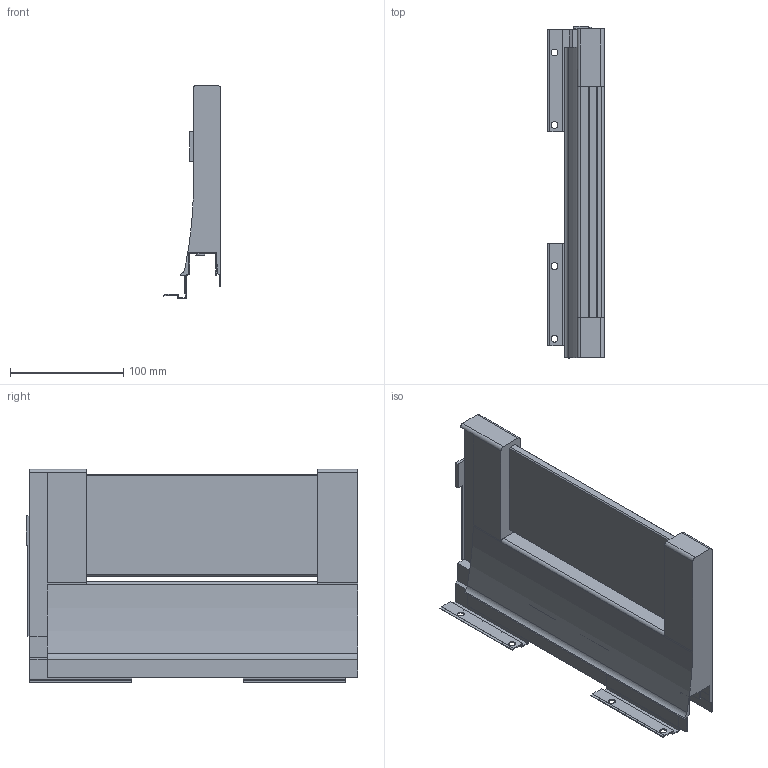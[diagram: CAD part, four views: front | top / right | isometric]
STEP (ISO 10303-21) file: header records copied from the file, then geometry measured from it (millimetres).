
FILE_DESCRIPTION (( 'STEP AP214' ), '1' );
FILE_NAME ('_XP Agantis Dekorseite H95 NL300 RE Top Glashalter.step', '2010-07-08T06:15:38', ( 'grass' ), ( '' ), 'SwSTEP 2.0', 'SolidWorks 2010', '' );
FILE_SCHEMA (( 'AUTOMOTIVE_DESIGN' ));
Length unit declared in the file: millimetre
Products named in the file (1): _XP Agantis Dekorseite H95 NL300 RE Top Glashalter
Bounding box: 50.11 x 292.6 x 188.7 mm (x, y, z)
Volume: 756620.6 mm3; surface area: 165566.1 mm2
Topology: 1 solids, 1 shells, 134 faces, 392 edges, 257 vertices
Faces by surface type: plane 107, cylinder 27
Entity records: 4450 total; most frequent: ORIENTED_EDGE 784, CARTESIAN_POINT 784, DIRECTION 718, EDGE_CURVE 392, VECTOR 336, LINE 336, VERTEX_POINT 257, AXIS2_PLACEMENT_3D 191
